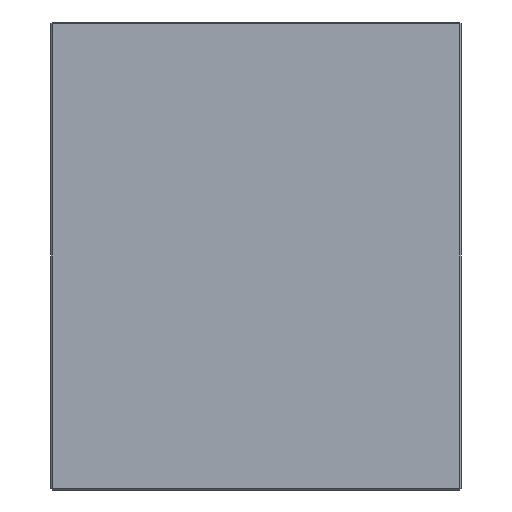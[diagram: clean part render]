
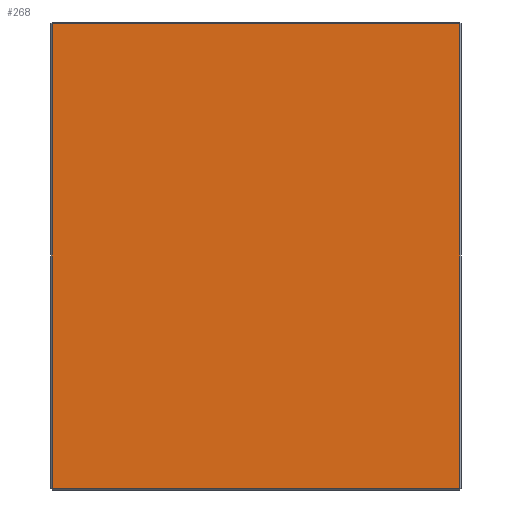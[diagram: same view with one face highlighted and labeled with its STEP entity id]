
A CAD part, front view. The second image highlights one B-rep face of the part: STEP entity #268.
In plain terms, the highlighted planar face has unit normal (0, -1, 0).
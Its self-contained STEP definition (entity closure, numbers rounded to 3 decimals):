
#6 = LINE ( 'NONE', #23, #73 ) ;
#11 = CARTESIAN_POINT ( 'NONE',  ( -107., 0., 0. ) ) ;
#23 = CARTESIAN_POINT ( 'NONE',  ( 0., 0., -122. ) ) ;
#24 = VERTEX_POINT ( 'NONE', #167 ) ;
#46 = ORIENTED_EDGE ( 'NONE', *, *, #166, .T. ) ;
#69 = CARTESIAN_POINT ( 'NONE',  ( 107., 0., -122. ) ) ;
#73 = VECTOR ( 'NONE', #75, 1000. ) ;
#75 = DIRECTION ( 'NONE',  ( 1., 0., 0. ) ) ;
#84 = DIRECTION ( 'NONE',  ( 0., 0., -1. ) ) ;
#105 = LINE ( 'NONE', #11, #490 ) ;
#128 = FACE_OUTER_BOUND ( 'NONE', #422, .T. ) ;
#159 = ORIENTED_EDGE ( 'NONE', *, *, #577, .T. ) ;
#166 = EDGE_CURVE ( 'NONE', #541, #24, #105, .T. ) ;
#167 = CARTESIAN_POINT ( 'NONE',  ( -107., 0., -122. ) ) ;
#190 = LINE ( 'NONE', #327, #225 ) ;
#218 = LINE ( 'NONE', #400, #454 ) ;
#225 = VECTOR ( 'NONE', #330, 1000. ) ;
#245 = EDGE_CURVE ( 'NONE', #451, #541, #190, .T. ) ;
#268 = ADVANCED_FACE ( 'NONE', ( #128 ), #423, .F. ) ;
#313 = EDGE_CURVE ( 'NONE', #24, #590, #6, .T. ) ;
#327 = CARTESIAN_POINT ( 'NONE',  ( 0., 0., 122. ) ) ;
#330 = DIRECTION ( 'NONE',  ( -1., 0., 0. ) ) ;
#378 = CARTESIAN_POINT ( 'NONE',  ( 0., 0., 0. ) ) ;
#397 = AXIS2_PLACEMENT_3D ( 'NONE', #378, #427, #428 ) ;
#400 = CARTESIAN_POINT ( 'NONE',  ( 107., 0., 0. ) ) ;
#407 = CARTESIAN_POINT ( 'NONE',  ( -107., 0., 122. ) ) ;
#422 = EDGE_LOOP ( 'NONE', ( #159, #516, #46, #555 ) ) ;
#423 = PLANE ( 'NONE',  #397 ) ;
#427 = DIRECTION ( 'NONE',  ( 0., 1., 0. ) ) ;
#428 = DIRECTION ( 'NONE',  ( 0., 0., 1. ) ) ;
#451 = VERTEX_POINT ( 'NONE', #622 ) ;
#454 = VECTOR ( 'NONE', #484, 1000. ) ;
#484 = DIRECTION ( 'NONE',  ( 0., 0., 1. ) ) ;
#490 = VECTOR ( 'NONE', #84, 1000. ) ;
#516 = ORIENTED_EDGE ( 'NONE', *, *, #245, .T. ) ;
#541 = VERTEX_POINT ( 'NONE', #407 ) ;
#555 = ORIENTED_EDGE ( 'NONE', *, *, #313, .T. ) ;
#577 = EDGE_CURVE ( 'NONE', #590, #451, #218, .T. ) ;
#590 = VERTEX_POINT ( 'NONE', #69 ) ;
#622 = CARTESIAN_POINT ( 'NONE',  ( 107., 0., 122. ) ) ;
